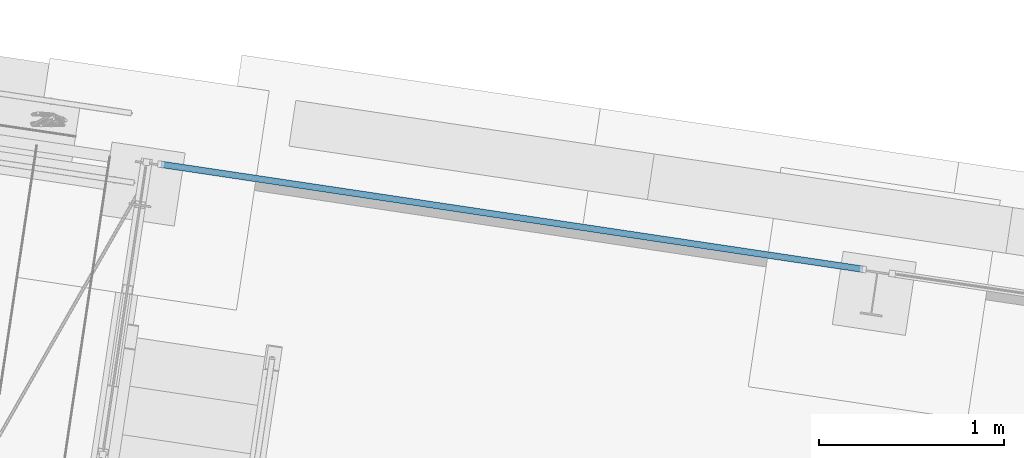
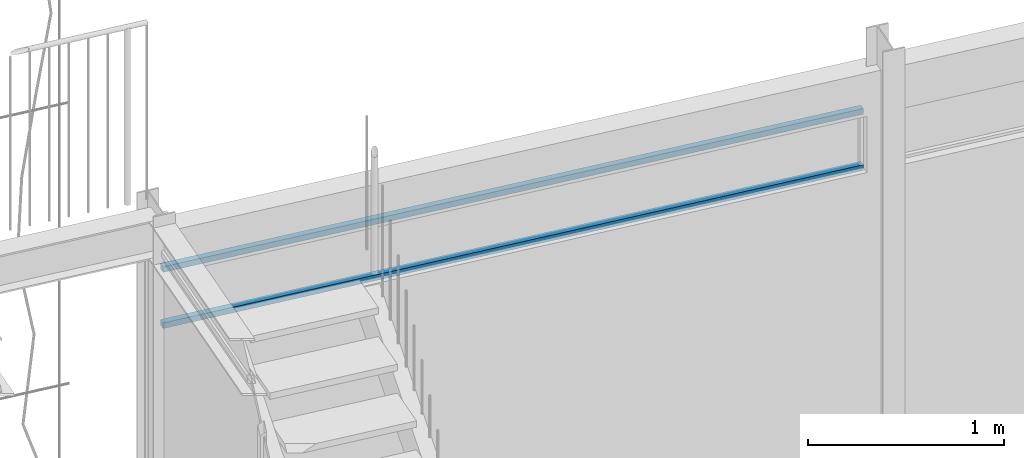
# One storey, part 46 of 142: 2 members.
"""IFC4 building model written with IfcOpenShell, lengths in metres."""

import ifcopenshell
import ifcopenshell.guid

model = None  # the IFC model being written
_history = None  # IfcOwnerHistory: only IFC2X3 demands one
_inside = {}  # id of a spatial element -> (the spatial element, [elements in it])
_under = {}  # id of a project, library or spatial element -> (it, [spatial elements below it])
_declared = {}  # id of a project -> (the project, [libraries it declares])
_typed = {}  # id of a type object -> (the type object, [elements of that type])
_made_of = {}  # id of a material, layer set ... -> (it, [elements and type objects made of it])


def new_model(schema):
    """Start an empty IFC model of exactly this schema.

    Asked for "IFC4X3", IfcOpenShell would pick the latest addendum, in which some entities
    have other attributes; the version numbers below select the first issue.
    IFC2X3 requires an IfcOwnerHistory on every rooted entity: one is made here for all.
    """
    global model, _history
    if schema == "IFC4X3":
        model = ifcopenshell.file(schema_version=(4, 3, 0, 0))
    else:
        model = ifcopenshell.file(schema=schema)
    _inside.clear()
    _under.clear()
    _declared.clear()
    _typed.clear()
    _made_of.clear()
    _history = None
    if model.schema == "IFC2X3":
        org = make("IfcOrganization", Name="unknown")
        user = make(
            "IfcPersonAndOrganization",
            ThePerson=make("IfcPerson", FamilyName="unknown"),
            TheOrganization=org,
        )
        app = make(
            "IfcApplication",
            ApplicationDeveloper=org,
            Version="unknown",
            ApplicationFullName="unknown",
            ApplicationIdentifier="unknown",
        )
        _history = make(
            "IfcOwnerHistory",
            OwningUser=user,
            OwningApplication=app,
            ChangeAction="ADDED",
            CreationDate=0,
        )
    return model


def make(cls, **values):
    """One entity of the class cls with the attributes given. An attribute that is None is left unset."""
    return model.create_entity(
        cls, **{name: value for name, value in values.items() if value is not None}
    )


def rooted(cls, **values):
    """An entity with a GlobalId (a new one), such as an element, a storey or a relation."""
    return make(cls, GlobalId=ifcopenshell.guid.new(), OwnerHistory=_history, **values)


def si_unit(unit_type, name, prefix=None):
    """IfcSIUnit, for example si_unit("LENGTHUNIT", "METRE", prefix="MILLI")."""
    return make("IfcSIUnit", UnitType=unit_type, Prefix=prefix, Name=name)


def assignment(units):
    """IfcUnitAssignment: the units of a project."""
    return None if units is None else make("IfcUnitAssignment", Units=units)


def point(xyz):
    """IfcCartesianPoint."""
    return None if xyz is None else make("IfcCartesianPoint", Coordinates=xyz)


def direction(xyz):
    """IfcDirection."""
    return None if xyz is None else make("IfcDirection", DirectionRatios=xyz)


def frame(location, z_axis=None, x_axis=None):
    """IfcAxis2Placement3D, a coordinate frame: its origin and axes. An axis left out is left unset."""
    return make(
        "IfcAxis2Placement3D",
        Location=point(location),
        Axis=direction(z_axis),
        RefDirection=direction(x_axis),
    )


def origin_with_axes():
    """The frame at (0, 0, 0) with the z axis (0, 0, 1) and the x axis (1, 0, 0) written out."""
    return frame((0.0, 0.0, 0.0), z_axis=(0.0, 0.0, 1.0), x_axis=(1.0, 0.0, 0.0))


def place(relative_to, where):
    """IfcLocalPlacement: puts the frame where relative to a parent placement (None: the world)."""
    return make(
        "IfcLocalPlacement", PlacementRelTo=relative_to, RelativePlacement=where
    )


def context(
    kind, dimensions, precision=None, world=None, true_north=None, identifier=None
):
    """IfcGeometricRepresentationContext, for example the 3D "Model" context."""
    return make(
        "IfcGeometricRepresentationContext",
        ContextIdentifier=identifier,
        ContextType=kind,
        CoordinateSpaceDimension=dimensions,
        Precision=precision,
        WorldCoordinateSystem=world,
        TrueNorth=true_north,
    )


def subcontext(parent, identifier, kind, view, scale=None):
    """IfcGeometricRepresentationSubContext, for example "Body" below "Model"."""
    return make(
        "IfcGeometricRepresentationSubContext",
        ContextIdentifier=identifier,
        ContextType=kind,
        ParentContext=parent,
        TargetScale=scale,
        TargetView=view,
    )


def project(units=None, contexts=None):
    """IfcProject with its units and contexts."""
    return rooted(
        "IfcProject",
        Name="project",
        RepresentationContexts=contexts,
        UnitsInContext=assignment(units),
    )


def spatial(cls, under=None, at=None, **own):
    """A site, building, storey or space (cls), placed at a placement, below another one or the project."""
    s = rooted(cls, ObjectPlacement=at, **own)
    if under is not None:
        _under.setdefault(under.id(), (under, []))[1].append(s)
    return s


def profile(cls, at=None, kind="AREA", **sizes):
    """A parametric profile (cls). Its sizes go by their IFC names, for example OverallWidth=200.0."""
    return make(cls, ProfileType=kind, Position=at, **sizes)


def rectangle(**sizes):
    """IfcRectangleProfileDef."""
    return profile("IfcRectangleProfileDef", **sizes)


def extrude(swept, where, along, depth):
    """IfcExtrudedAreaSolid: the profile swept, set in the frame where, extruded along a direction by depth."""
    return make(
        "IfcExtrudedAreaSolid",
        SweptArea=swept,
        Position=where,
        ExtrudedDirection=direction(along),
        Depth=depth,
    )


def shape(context_of_items, identifier, shape_type, items):
    """IfcShapeRepresentation: the items that make up one representation, for example the "Body"."""
    return make(
        "IfcShapeRepresentation",
        ContextOfItems=context_of_items,
        RepresentationIdentifier=identifier,
        RepresentationType=shape_type,
        Items=items,
    )


def material(Name=None, Category=None):
    """IfcMaterial."""
    return make("IfcMaterial", Name=Name, Category=Category)


def material_profile(
    of_material, cross_section, Name=None, Category=None, Priority=None
):
    """IfcMaterialProfile: a cross section and its material."""
    return make(
        "IfcMaterialProfile",
        Name=Name,
        Material=of_material,
        Profile=cross_section,
        Priority=Priority,
        Category=Category,
    )


def profile_set(profiles, Name=None, composite=None):
    """IfcMaterialProfileSet."""
    return make(
        "IfcMaterialProfileSet",
        Name=Name,
        MaterialProfiles=profiles,
        CompositeProfile=composite,
    )


def profile_usage(for_profile_set, cardinal=None, extent=None):
    """IfcMaterialProfileSetUsage: how a profile set lies along its element."""
    return make(
        "IfcMaterialProfileSetUsage",
        ForProfileSet=for_profile_set,
        CardinalPoint=cardinal,
        ReferenceExtent=extent,
    )


def made_of(thing, what):
    """Note that an element or type object is made of a material, layer set ...; save() writes the relation."""
    if what is not None:
        _made_of.setdefault(what.id(), (what, []))[1].append(thing)
    return thing


def type_object(cls, material=None, **own):
    """A type object (cls), such as IfcWallType, which elements share."""
    return made_of(rooted(cls, **own), material)


def element(
    cls,
    number,
    at=None,
    inside=None,
    cuts=None,
    type_object=None,
    material=None,
    context=None,
    identifier="Body",
    shape_type=None,
    held_by="IfcProductDefinitionShape",
    body=None,
    shapes=None,
    **own,
):
    """One element of the class cls, such as IfcWall. Its Tag is "e" and its number.

    at: its placement. inside: the storey or other place that contains it. cuts: it is an
    opening in that element (IfcRelVoidsElement). A single representation is given by context,
    identifier, shape_type and body (its items); several are given by shapes. held_by: the class
    of the entity that holds the representations. save() writes the other relations.
    """
    e = rooted(cls, Tag="e%d" % number, ObjectPlacement=at, **own)
    if body is not None:
        shapes = [shape(context, identifier, shape_type, body)]
    if shapes is not None:
        e.Representation = make(held_by, Representations=shapes)
    if inside is not None:
        _inside.setdefault(inside.id(), (inside, []))[1].append(e)
    if cuts is not None:
        rooted(
            "IfcRelVoidsElement", RelatingBuildingElement=cuts, RelatedOpeningElement=e
        )
    if type_object is not None:
        _typed.setdefault(type_object.id(), (type_object, []))[1].append(e)
    return made_of(e, material)


def aggregate(whole, parts):
    """IfcRelAggregates: a whole, such as a stair, and the parts it consists of."""
    return rooted("IfcRelAggregates", RelatingObject=whole, RelatedObjects=parts)


def save(model, path):
    """Write the relations noted so far, then the file.

    IfcRelAggregates (storeys below a building ...), IfcRelContainedInSpatialStructure (elements
    in a storey), IfcRelDefinesByType, IfcRelAssociatesMaterial and IfcRelDeclares: one each for
    every whole, place, type object, material and project.
    """
    for whole, parts in _under.values():
        aggregate(whole, parts)
    for where, things in _inside.values():
        rooted(
            "IfcRelContainedInSpatialStructure",
            RelatedElements=things,
            RelatingStructure=where,
        )
    for kind, things in _typed.values():
        rooted("IfcRelDefinesByType", RelatedObjects=things, RelatingType=kind)
    for what, things in _made_of.values():
        rooted("IfcRelAssociatesMaterial", RelatedObjects=things, RelatingMaterial=what)
    for by, libraries in _declared.values():
        rooted("IfcRelDeclares", RelatingContext=by, RelatedDefinitions=libraries)
    model.write(path)


model = new_model("IFC4")

# Units and contexts
model_context = context("Model", 3, precision=1e-05, world=origin_with_axes(), true_north=direction((0.0, 1.0)))
body_context = subcontext(model_context, "Body", "Model", "MODEL_VIEW")
ifc_project = project(units=[si_unit("VOLUMEUNIT", "CUBIC_METRE"), si_unit("LENGTHUNIT", "METRE"), si_unit("AREAUNIT", "SQUARE_METRE")], contexts=[model_context])

# Site, building, storey
site_placement = place(None, origin_with_axes())
site = spatial("IfcSite", under=ifc_project, at=site_placement, Name="Lares · Rua das Mercês · artigo 4771")
building_placement = place(site_placement, frame((12.0, 10.2, 13.9), z_axis=(0.0, 0.0, 1.0), x_axis=(0.989015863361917, -0.147809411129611, 0.0)))
building = spatial("IfcBuilding", under=site, at=building_placement, Name="Casa Sobreposta")
storey_placement = place(building_placement, origin_with_axes())
storey = spatial("IfcBuildingStorey", under=building, at=storey_placement, Name="00 · Habitação e estacionamento", Elevation=13.9)

# Members
ifc_material = material(Name="Aço pintado / Stahl lackiert", Category="steel")
ifc_material_profile = material_profile(ifc_material, rectangle(XDim=0.035, YDim=0.035))
ifc_profile_set = profile_set([ifc_material_profile], Name="R0.035")
ifc_profile_usage_1 = profile_usage(ifc_profile_set)
member_type = type_object("IfcMemberType", Name="R0.035 / steel", PredefinedType="NOTDEFINED", material=ifc_profile_set)
member_1_placement = place(storey_placement, frame((0.08, 6.4, 2.35), z_axis=(1.0, 0.0, 0.0), x_axis=(0.0, -1.0, 0.0)))
element("IfcMember", 1, at=member_1_placement, inside=storey, type_object=member_type, material=ifc_profile_usage_1, Name="Rasgo norte 1 · travessa", context=body_context, shape_type="SweptSolid", body=[
    extrude(rectangle(XDim=0.035, YDim=0.035), origin_with_axes(), (0.0, 0.0, 1.0), 3.84),
])
ifc_profile_usage_2 = profile_usage(ifc_profile_set)
member_2_placement = place(storey_placement, frame((0.08, 6.4, 2.7), z_axis=(1.0, 0.0, 0.0), x_axis=(0.0, -1.0, 0.0)))
element("IfcMember", 2, at=member_2_placement, inside=storey, type_object=member_type, material=ifc_profile_usage_2, Name="Rasgo norte 1 · travessa", context=body_context, shape_type="SweptSolid", body=[
    extrude(rectangle(XDim=0.035, YDim=0.035), origin_with_axes(), (0.0, 0.0, 1.0), 3.84),
])

save(model, "model.ifc")
